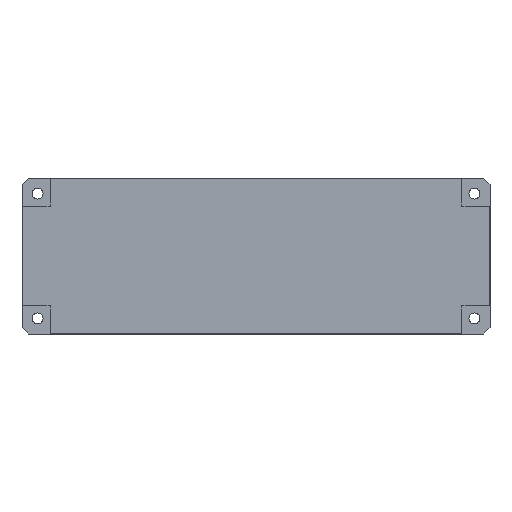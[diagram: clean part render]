
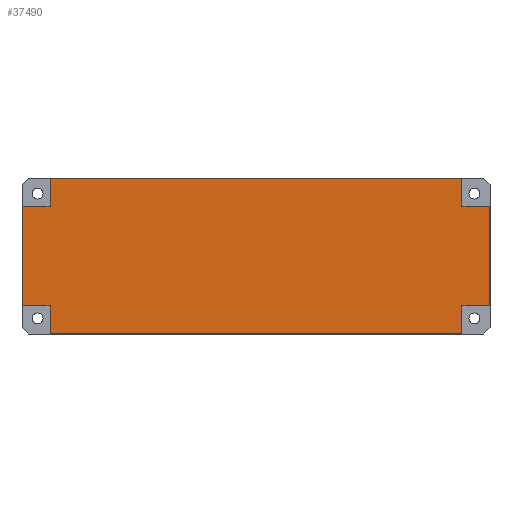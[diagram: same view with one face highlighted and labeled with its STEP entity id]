
A CAD part, front view. The second image highlights one B-rep face of the part: STEP entity #37490.
In plain terms, the highlighted planar face has unit normal (0, -1, 0).
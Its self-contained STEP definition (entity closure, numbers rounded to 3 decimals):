
#6903 = EDGE_CURVE ( 'NONE', #27982, #27980, #40194, .T. ) ;
#20174 = DIRECTION ( 'NONE',  ( -1., 0., 0. ) ) ;
#20175 = CARTESIAN_POINT ( 'NONE',  ( 0.1, -8., -9. ) ) ;
#20214 = VECTOR ( 'NONE', #20174, 1000. ) ;
#20217 = LINE ( 'NONE', #20175, #20214 ) ;
#20790 = LINE ( 'NONE', #20843, #20842 ) ;
#20791 = DIRECTION ( 'NONE',  ( 1., 0., 0. ) ) ;
#20792 = VECTOR ( 'NONE', #20791, 1000. ) ;
#20793 = CARTESIAN_POINT ( 'NONE',  ( 149.9, -8., -41. ) ) ;
#20794 = LINE ( 'NONE', #20793, #20792 ) ;
#20818 = CARTESIAN_POINT ( 'NONE',  ( 0.1, -8., -41. ) ) ;
#20819 = LINE ( 'NONE', #20818, #20835 ) ;
#20834 = DIRECTION ( 'NONE',  ( 1., 0., 0. ) ) ;
#20835 = VECTOR ( 'NONE', #20834, 1000. ) ;
#20841 = DIRECTION ( 'NONE',  ( 1., 0., 0. ) ) ;
#20842 = VECTOR ( 'NONE', #20841, 1000. ) ;
#20843 = CARTESIAN_POINT ( 'NONE',  ( 0.1, -8., -0.1 ) ) ;
#20851 = CARTESIAN_POINT ( 'NONE',  ( 9., -8., -41. ) ) ;
#20899 = CARTESIAN_POINT ( 'NONE',  ( 9., -8., -9. ) ) ;
#20934 = CARTESIAN_POINT ( 'NONE',  ( 149.9, -8., -9. ) ) ;
#20986 = DIRECTION ( 'NONE',  ( -1., 0., 0. ) ) ;
#20988 = VECTOR ( 'NONE', #20986, 1000. ) ;
#20996 = LINE ( 'NONE', #20934, #20988 ) ;
#21014 = CARTESIAN_POINT ( 'NONE',  ( 141., -8., -9. ) ) ;
#21015 = DIRECTION ( 'NONE',  ( 0., 0., -1. ) ) ;
#21016 = VECTOR ( 'NONE', #21015, 1000. ) ;
#21017 = CARTESIAN_POINT ( 'NONE',  ( 9., -8., -0.1 ) ) ;
#21032 = LINE ( 'NONE', #21017, #21016 ) ;
#21050 = CARTESIAN_POINT ( 'NONE',  ( 141., -8., -41. ) ) ;
#21164 = PLANE ( 'NONE',  #21171 ) ;
#21171 = AXIS2_PLACEMENT_3D ( 'NONE', #21243, #21242, #21241 ) ;
#21195 = LINE ( 'NONE', #21237, #21236 ) ;
#21202 = FACE_OUTER_BOUND ( 'NONE', #37415, .T. ) ;
#21235 = DIRECTION ( 'NONE',  ( 0., 0., 1. ) ) ;
#21236 = VECTOR ( 'NONE', #21235, 1000. ) ;
#21237 = CARTESIAN_POINT ( 'NONE',  ( 141., -8., -0.1 ) ) ;
#21241 = DIRECTION ( 'NONE',  ( 0., 0., -1. ) ) ;
#21242 = DIRECTION ( 'NONE',  ( 0., -1., 0. ) ) ;
#21243 = CARTESIAN_POINT ( 'NONE',  ( 0.1, -8., -49.9 ) ) ;
#21249 = CARTESIAN_POINT ( 'NONE',  ( 141., -8., -49.9 ) ) ;
#21280 = DIRECTION ( 'NONE',  ( 0., 0., 1. ) ) ;
#21281 = VECTOR ( 'NONE', #21280, 1000. ) ;
#21286 = LINE ( 'NONE', #21249, #21281 ) ;
#21328 = LINE ( 'NONE', #21335, #21393 ) ;
#21335 = CARTESIAN_POINT ( 'NONE',  ( 9., -8., -49.9 ) ) ;
#21392 = DIRECTION ( 'NONE',  ( 0., 0., -1. ) ) ;
#21393 = VECTOR ( 'NONE', #21392, 1000. ) ;
#27725 = VERTEX_POINT ( 'NONE', #45041 ) ;
#27729 = VERTEX_POINT ( 'NONE', #45080 ) ;
#27736 = EDGE_CURVE ( 'NONE', #27725, #27737, #45113, .T. ) ;
#27737 = VERTEX_POINT ( 'NONE', #45156 ) ;
#27974 = VERTEX_POINT ( 'NONE', #45828 ) ;
#27980 = VERTEX_POINT ( 'NONE', #45789 ) ;
#27982 = VERTEX_POINT ( 'NONE', #45832 ) ;
#27985 = VERTEX_POINT ( 'NONE', #45812 ) ;
#27986 = EDGE_CURVE ( 'NONE', #27729, #27985, #45807, .T. ) ;
#27992 = VERTEX_POINT ( 'NONE', #45803 ) ;
#37145 = ORIENTED_EDGE ( 'NONE', *, *, #37147, .T. ) ;
#37147 = EDGE_CURVE ( 'NONE', #37398, #27737, #20217, .T. ) ;
#37292 = ORIENTED_EDGE ( 'NONE', *, *, #27736, .F. ) ;
#37332 = EDGE_CURVE ( 'NONE', #37436, #27980, #20794, .T. ) ;
#37335 = EDGE_CURVE ( 'NONE', #27974, #27992, #20790, .T. ) ;
#37342 = ORIENTED_EDGE ( 'NONE', *, *, #37332, .T. ) ;
#37359 = EDGE_CURVE ( 'NONE', #27725, #37383, #20819, .T. ) ;
#37366 = ORIENTED_EDGE ( 'NONE', *, *, #37359, .T. ) ;
#37383 = VERTEX_POINT ( 'NONE', #20851 ) ;
#37398 = VERTEX_POINT ( 'NONE', #20899 ) ;
#37415 = EDGE_LOOP ( 'NONE', ( #37342, #37441, #37443, #37444, #37432, #37446, #37145, #37292, #37366, #37537, #37465, #37518 ) ) ;
#37422 = EDGE_CURVE ( 'NONE', #27982, #37428, #20996, .T. ) ;
#37425 = EDGE_CURVE ( 'NONE', #27974, #37398, #21032, .T. ) ;
#37428 = VERTEX_POINT ( 'NONE', #21014 ) ;
#37432 = ORIENTED_EDGE ( 'NONE', *, *, #37335, .F. ) ;
#37436 = VERTEX_POINT ( 'NONE', #21050 ) ;
#37441 = ORIENTED_EDGE ( 'NONE', *, *, #6903, .F. ) ;
#37443 = ORIENTED_EDGE ( 'NONE', *, *, #37422, .T. ) ;
#37444 = ORIENTED_EDGE ( 'NONE', *, *, #37492, .T. ) ;
#37446 = ORIENTED_EDGE ( 'NONE', *, *, #37425, .T. ) ;
#37465 = ORIENTED_EDGE ( 'NONE', *, *, #27986, .F. ) ;
#37490 = ADVANCED_FACE ( 'NONE', ( #21202 ), #21164, .T. ) ;
#37492 = EDGE_CURVE ( 'NONE', #37428, #27992, #21195, .T. ) ;
#37518 = ORIENTED_EDGE ( 'NONE', *, *, #37522, .T. ) ;
#37522 = EDGE_CURVE ( 'NONE', #27729, #37436, #21286, .T. ) ;
#37535 = EDGE_CURVE ( 'NONE', #37383, #27985, #21328, .T. ) ;
#37537 = ORIENTED_EDGE ( 'NONE', *, *, #37535, .T. ) ;
#40192 = DIRECTION ( 'NONE',  ( 0., 0., -1. ) ) ;
#40193 = CARTESIAN_POINT ( 'NONE',  ( 149.9, -8., -0.1 ) ) ;
#40194 = LINE ( 'NONE', #40193, #40234 ) ;
#40234 = VECTOR ( 'NONE', #40192, 1000. ) ;
#45041 = CARTESIAN_POINT ( 'NONE',  ( 0.1, -8., -41. ) ) ;
#45080 = CARTESIAN_POINT ( 'NONE',  ( 141., -8., -49.9 ) ) ;
#45113 = LINE ( 'NONE', #45153, #45152 ) ;
#45151 = DIRECTION ( 'NONE',  ( 0., 0., 1. ) ) ;
#45152 = VECTOR ( 'NONE', #45151, 1000. ) ;
#45153 = CARTESIAN_POINT ( 'NONE',  ( 0.1, -8., -0.1 ) ) ;
#45156 = CARTESIAN_POINT ( 'NONE',  ( 0.1, -8., -9. ) ) ;
#45789 = CARTESIAN_POINT ( 'NONE',  ( 149.9, -8., -41. ) ) ;
#45803 = CARTESIAN_POINT ( 'NONE',  ( 141., -8., -0.1 ) ) ;
#45804 = DIRECTION ( 'NONE',  ( -1., 0., 0. ) ) ;
#45805 = VECTOR ( 'NONE', #45804, 1000. ) ;
#45806 = CARTESIAN_POINT ( 'NONE',  ( 0.1, -8., -49.9 ) ) ;
#45807 = LINE ( 'NONE', #45806, #45805 ) ;
#45812 = CARTESIAN_POINT ( 'NONE',  ( 9., -8., -49.9 ) ) ;
#45828 = CARTESIAN_POINT ( 'NONE',  ( 9., -8., -0.1 ) ) ;
#45832 = CARTESIAN_POINT ( 'NONE',  ( 149.9, -8., -9. ) ) ;
